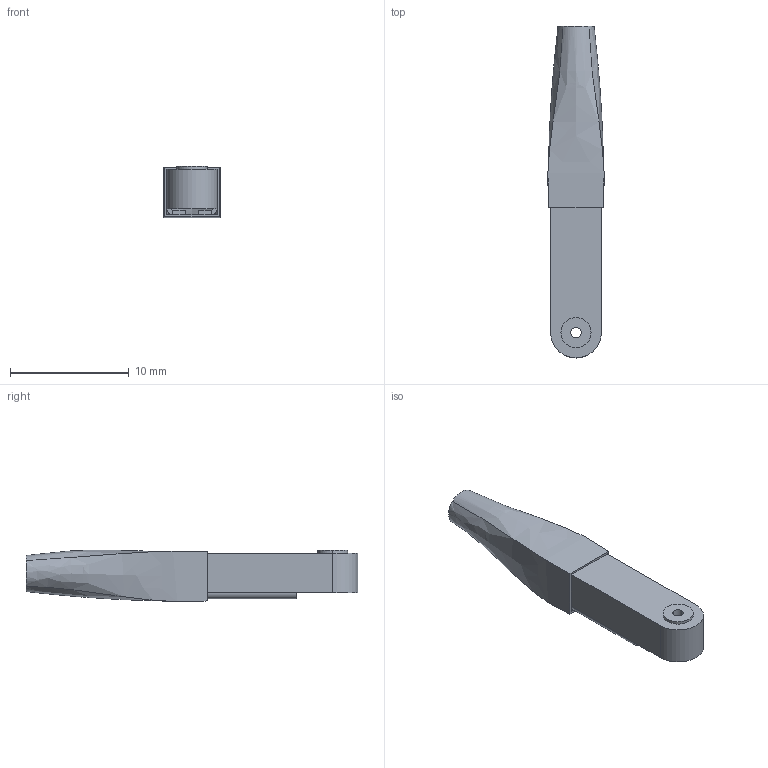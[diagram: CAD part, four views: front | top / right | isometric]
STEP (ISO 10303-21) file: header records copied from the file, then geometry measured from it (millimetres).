
FILE_DESCRIPTION((''),'2;1');
FILE_NAME('CT6_ASM','2023-06-15T13:55:31',('mthomps2'),(''),'CREO PARAMETRIC BY PTC INC, 2022284','CREO PARAMETRIC BY PTC INC, 2022284','');
FILE_SCHEMA(('CONFIG_CONTROL_DESIGN','SHAPE_APPEARANCE_LAYERS_GROUPS'));
Length unit declared in the file: inch
Products named in the file (6): 389264800; 120200700; 380112800; 358083600; RAYCHEM_RNF3000_62_SHRUNK; CT6_ASM
Assembly tree (5 placements, depth 2):
  CT6_ASM
    389264800
    120200700
    380112800
    358083600
    RAYCHEM_RNF3000_62_SHRUNK
Bounding box: 4.75 x 27.94 x 4.33 mm (x, y, z)
Volume: 156.4 mm3; surface area: 1079.6 mm2
Topology: 5 solids, 5 shells, 72 faces, 165 edges, 104 vertices
Faces by surface type: plane 40, cylinder 22, bspline 8, cone 2
Entity records: 2870 total; most frequent: CARTESIAN_POINT 791, DIRECTION 335, ORIENTED_EDGE 330, COLOUR_RGB 191, EDGE_CURVE 165, AXIS2_PLACEMENT_3D 121, VERTEX_POINT 104, VECTOR 93
